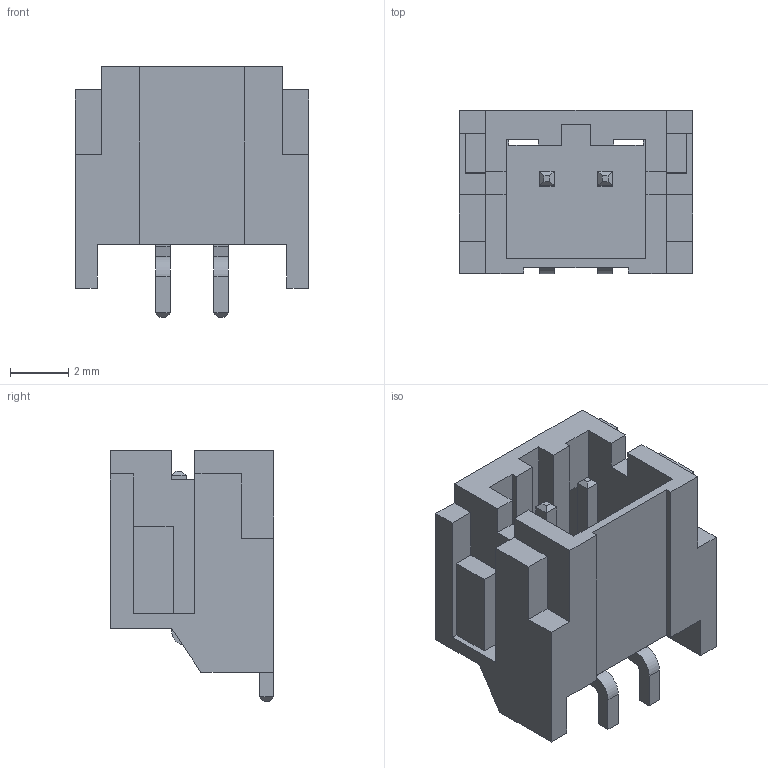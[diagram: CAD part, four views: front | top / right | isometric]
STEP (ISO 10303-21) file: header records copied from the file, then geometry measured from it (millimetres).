
FILE_DESCRIPTION (( 'STEP AP214' ), '1' );
FILE_NAME ('52B93EC8-8935-4BE6-B4B8-DB77C68B42AA.STEP', '2025-10-31T19:00:12', ( '' ), ( '' ), 'SwSTEP 2.0', 'SolidWorks 2022', '' );
FILE_SCHEMA (( 'AUTOMOTIVE_DESIGN' ));
Length unit declared in the file: millimetre
Products named in the file (1): 52B93EC8-8935-4BE6-B4B8-DB77C68B42AA
Bounding box: 8 x 5.6 x 8.6 mm (x, y, z)
Volume: 141.6 mm3; surface area: 448.9 mm2
Topology: 1 solids, 1 shells, 127 faces, 354 edges, 230 vertices
Faces by surface type: plane 121, cylinder 6
Entity records: 4018 total; most frequent: CARTESIAN_POINT 712, ORIENTED_EDGE 708, DIRECTION 622, EDGE_CURVE 354, LINE 342, VECTOR 342, VERTEX_POINT 230, AXIS2_PLACEMENT_3D 140
